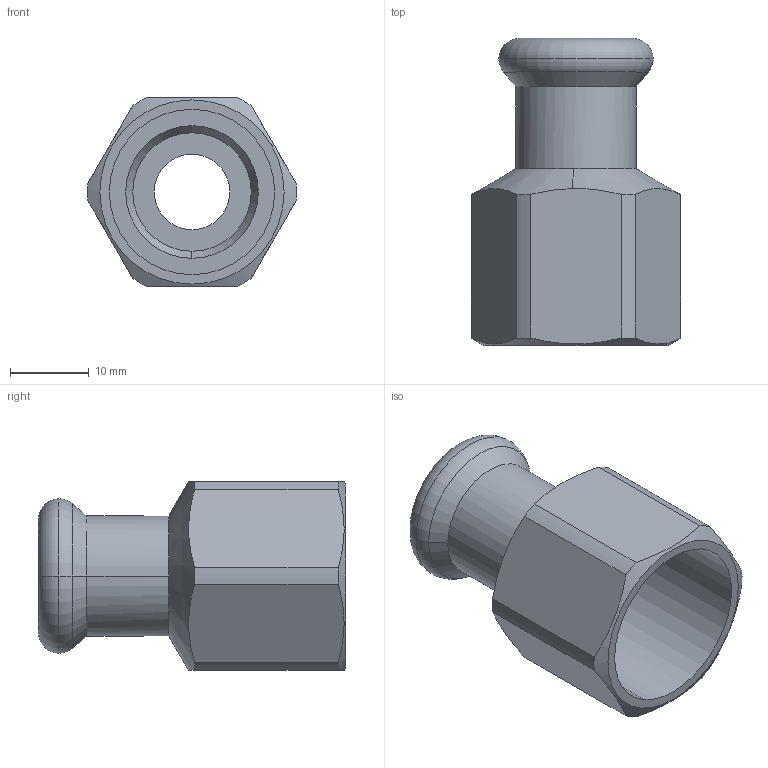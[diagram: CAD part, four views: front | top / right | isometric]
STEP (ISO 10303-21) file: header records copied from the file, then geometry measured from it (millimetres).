
FILE_DESCRIPTION(('CoCreate Modeling STEP Export'),'2;1');
FILE_NAME('C1402 12xRp1-2.stp','2014-11-06T16:55:46',(''),(''),'CoCreate Modeling STEP processor for AP214 (Solid Model)','CoCreate Modeling 17.00A 17-Jun-2010 (C) Parametric Technology GmbH','');
FILE_SCHEMA(('AUTOMOTIVE_DESIGN { 1 0 10303 214 1 1 1 1 }'));
Length unit declared in the file: millimetre
Products named in the file (2): C1402_12xRp½
Assembly tree (1 placements, depth 2):
  C1402_12xRp½
    C1402_12xRp½
Bounding box: 26.59 x 39 x 24 mm (x, y, z)
Volume: 5292.7 mm3; surface area: 5411.6 mm2
Topology: 1 solids, 1 shells, 42 faces, 107 edges, 71 vertices
Faces by surface type: cylinder 18, plane 12, cone 8, torus 4
Entity records: 1991 total; most frequent: CARTESIAN_POINT 1014, ORIENTED_EDGE 214, DIRECTION 168, EDGE_CURVE 107, VERTEX_POINT 71, AXIS2_PLACEMENT_3D 68, EDGE_LOOP 48, FACE_OUTER_BOUND 42
